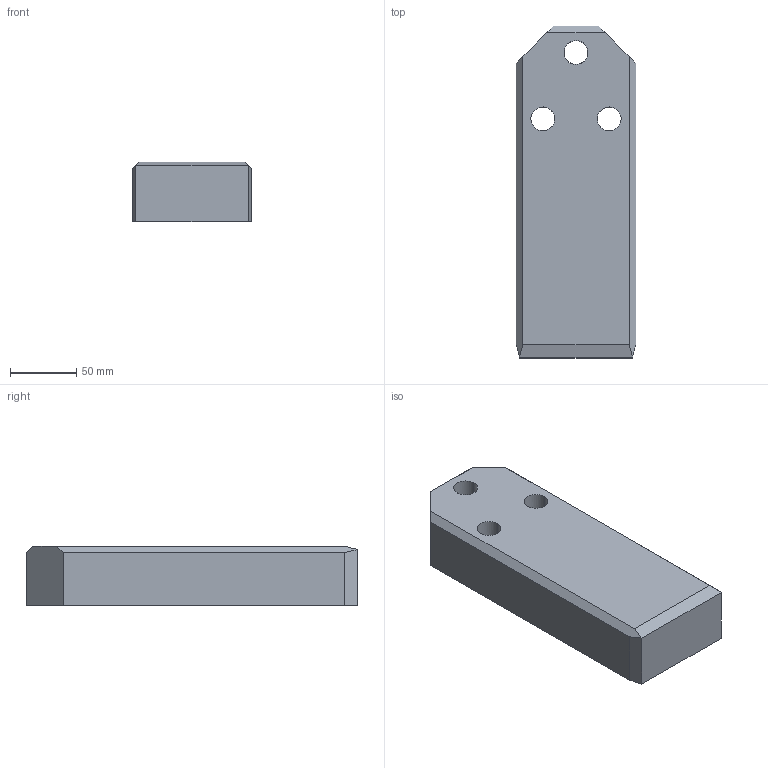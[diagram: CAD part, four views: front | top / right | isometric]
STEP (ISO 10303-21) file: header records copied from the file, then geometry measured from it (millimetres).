
FILE_DESCRIPTION(('CATIA V5 STEP Exchange'),'2;1');
FILE_NAME('C:\Users\borellobunino\Desktop\3D X SITO CF\A927\GSB_OILLESS_G2290509025045\STEP-2.03\A927-90X250X45.stp','2019-07-15T18:39:31+00:00',('none'),('none'),'CATIA Version 5 Release 20 GA (IN-10)','CATIA V5 STEP AP203','none');
FILE_SCHEMA(('CONFIG_CONTROL_DESIGN'));
Length unit declared in the file: millimetre
Products named in the file (1): A927-90X250X45
Bounding box: 90 x 250 x 45 mm (x, y, z)
Volume: 916684.7 mm3; surface area: 78066.2 mm2
Topology: 1 solids, 1 shells, 35 faces, 84 edges, 54 vertices
Faces by surface type: plane 17, cylinder 12, cone 6
Entity records: 1296 total; most frequent: CARTESIAN_POINT 450, ORIENTED_EDGE 168, DIRECTION 142, EDGE_CURVE 84, AXIS2_PLACEMENT_3D 54, VECTOR 54, LINE 54, VERTEX_POINT 54
